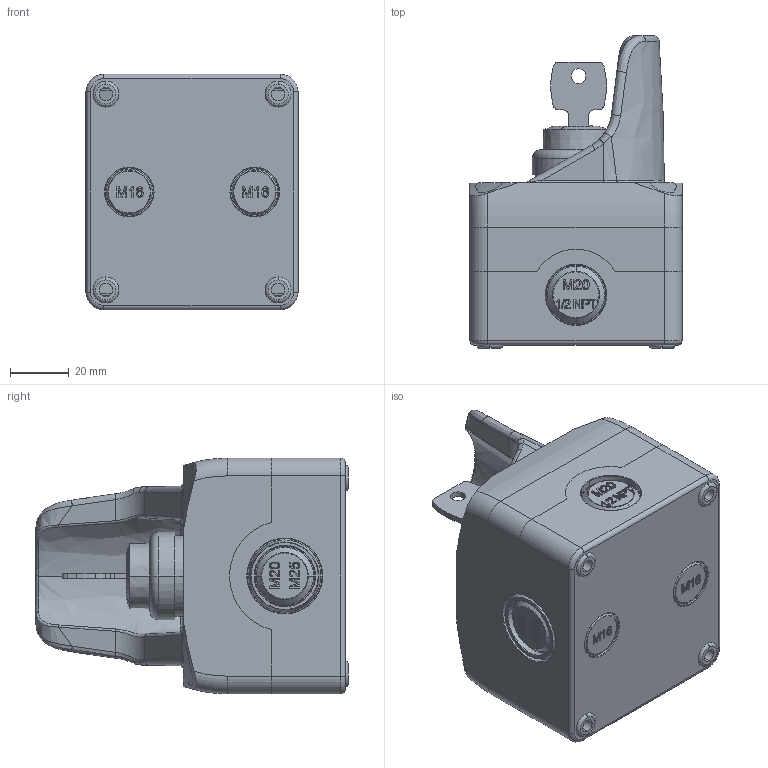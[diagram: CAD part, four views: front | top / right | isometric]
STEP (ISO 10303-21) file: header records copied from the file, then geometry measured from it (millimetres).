
FILE_DESCRIPTION (( 'STEP AP203' ), '1' );
FILE_NAME ('ZF_STEP_ES _AC31732.STEP', '2024-05-08T12:42:40', ( '' ), ( '' ), 'SwSTEP 2.0', 'SolidWorks 2023', '' );
FILE_SCHEMA (( 'CONFIG_CONTROL_DESIGN' ));
Length unit declared in the file: millimetre
Products named in the file (10): Tappo D_24176; Pizzato_selettore3; 24170_3DWeb_24150; 24181_3DWeb; Tappo C_24175; ZF_STEP_VE_GFx2xA_21008; ZF_STEP_E2_xSC2xCAxxxx_A10; 24171_3DWeb_24151; ZF_STEP_ES _AC31732; Pizzato_Chiave_Serratura_21040
Assembly tree (11 placements, depth 3):
  ZF_STEP_ES _AC31732
    24170_3DWeb_24150
    24171_3DWeb_24151
    ZF_STEP_E2_xSC2xCAxxxx_A10
      Pizzato_selettore3
      Pizzato_Chiave_Serratura_21040
      ZF_STEP_VE_GFx2xA_21008
    Tappo C_24175  x2
    Tappo D_24176  x2
    24181_3DWeb
Bounding box: 72 x 106 x 80 mm (x, y, z)
Volume: 320063 mm3; surface area: 77310.6 mm2
Topology: 10 solids, 10 shells, 1230 faces, 3173 edges, 2058 vertices
Faces by surface type: plane 574, bspline 298, cylinder 201, torus 78, cone 71, sphere 8
Entity records: 53600 total; most frequent: CARTESIAN_POINT 26859, ORIENTED_EDGE 5810, DIRECTION 4485, EDGE_CURVE 2905, VERTEX_POINT 1886, VECTOR 1507, LINE 1507, AXIS2_PLACEMENT_3D 1489
